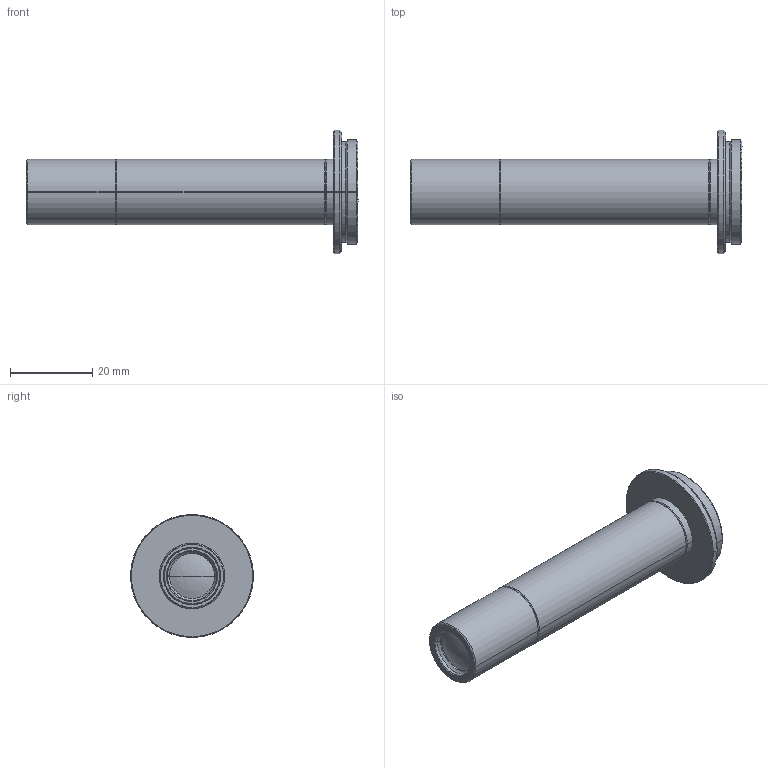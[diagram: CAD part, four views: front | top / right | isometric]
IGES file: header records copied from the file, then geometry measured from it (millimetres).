
Start section: SolidWorks IGES file using analytic representation for surfaces
Global section: file name: \\192.168.1.203\Development\01 マクロレンズ\02 VS-MC series\03 ノンテレマクロ\100 VS-MC1-80\3D\VS-MC1-80.IGS; native system: SolidWorks 2012; preprocessor: SolidWorks 2012; author: a-3DCAD2; date: 120601.170914; units: millimetre
Bounding box: 80.91 x 30 x 30 mm (x, y, z)
Surface area: 8507.9 mm2 (no closed solid volume)
Topology: 0 solids, 0 shells, 90 faces, 1024 edges, 1022 vertices
Faces by surface type: revolution 80, bspline 10
